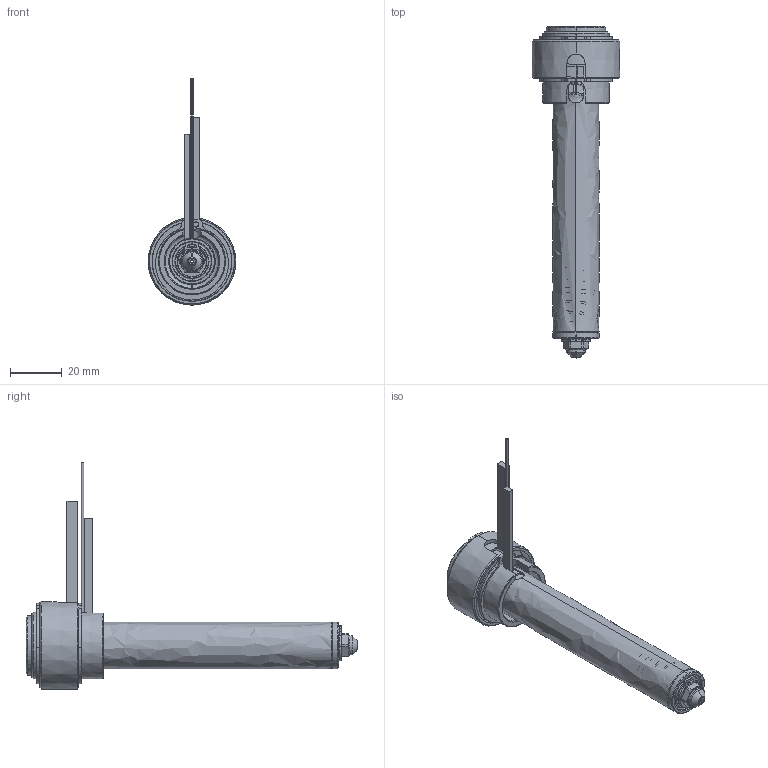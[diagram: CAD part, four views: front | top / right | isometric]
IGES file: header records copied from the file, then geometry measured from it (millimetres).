
Start section: SolidWorks IGES file using analytic representation for surfaces
Global section: file name: C:\Documents and Settings\ws-20\Desktop\TEM\UGER2504-M-A-1 [Øb-1.30 ØC-4.0].IGS; native system: SolidWorks 2012; preprocessor: SolidWorks 2012; author: ws-20; date: 120405.102058; units: millimetre
Bounding box: 34 x 128.9 x 87.9 mm (x, y, z)
Surface area: 21208.8 mm2 (no closed solid volume)
Topology: 0 solids, 0 shells, 189 faces, 2419 edges, 2419 vertices
Faces by surface type: revolution 120, bspline 69
